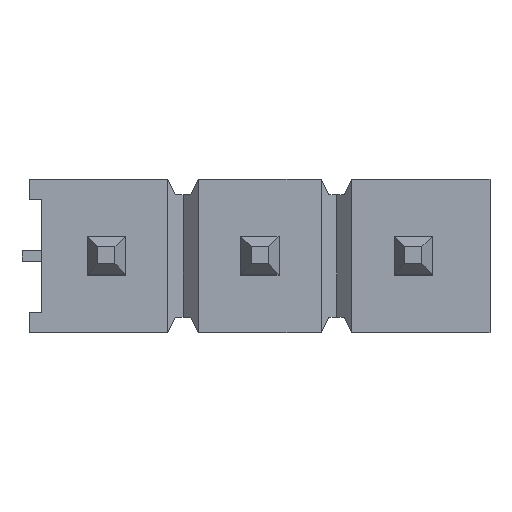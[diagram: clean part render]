
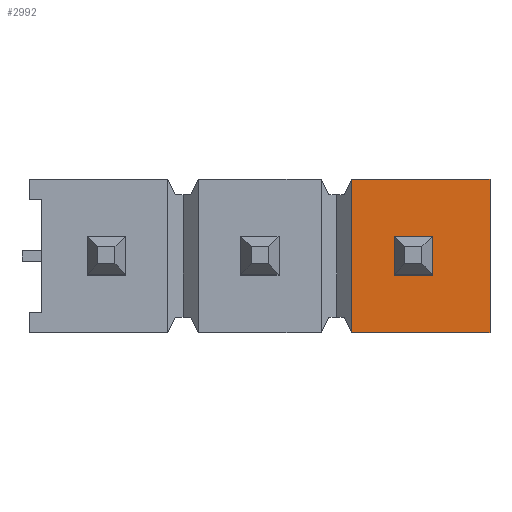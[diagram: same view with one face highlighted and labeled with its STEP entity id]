
A CAD part, top view. The second image highlights one B-rep face of the part: STEP entity #2992.
In plain terms, the highlighted planar face has unit normal (0, 0, 1).
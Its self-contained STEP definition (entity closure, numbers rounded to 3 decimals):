
#2724 = VERTEX_POINT('',#2725);
#2725 = CARTESIAN_POINT('',(1.524,-1.249,2.58));
#2731 = EDGE_CURVE('',#2732,#2724,#2734,.T.);
#2732 = VERTEX_POINT('',#2733);
#2733 = CARTESIAN_POINT('',(1.524,1.291,2.58));
#2734 = LINE('',#2735,#2736);
#2735 = CARTESIAN_POINT('',(1.524,0.021,2.58));
#2736 = VECTOR('',#2737,1.);
#2737 = DIRECTION('',(0.,-1.,0.));
#2992 = ADVANCED_FACE('',(#2993,#3018),#3052,.T.);
#2993 = FACE_BOUND('',#2994,.T.);
#2994 = EDGE_LOOP('',(#2995,#3003,#3004,#3012));
#2995 = ORIENTED_EDGE('',*,*,#2996,.T.);
#2996 = EDGE_CURVE('',#2997,#2732,#2999,.T.);
#2997 = VERTEX_POINT('',#2998);
#2998 = CARTESIAN_POINT('',(3.81,1.291,2.58));
#2999 = LINE('',#3000,#3001);
#3000 = CARTESIAN_POINT('',(3.81,1.291,2.58));
#3001 = VECTOR('',#3002,1.);
#3002 = DIRECTION('',(-1.,0.,0.));
#3003 = ORIENTED_EDGE('',*,*,#2731,.T.);
#3004 = ORIENTED_EDGE('',*,*,#3005,.T.);
#3005 = EDGE_CURVE('',#2724,#3006,#3008,.T.);
#3006 = VERTEX_POINT('',#3007);
#3007 = CARTESIAN_POINT('',(3.81,-1.249,2.58));
#3008 = LINE('',#3009,#3010);
#3009 = CARTESIAN_POINT('',(-3.81,-1.249,2.58));
#3010 = VECTOR('',#3011,1.);
#3011 = DIRECTION('',(1.,0.,0.));
#3012 = ORIENTED_EDGE('',*,*,#3013,.T.);
#3013 = EDGE_CURVE('',#3006,#2997,#3014,.T.);
#3014 = LINE('',#3015,#3016);
#3015 = CARTESIAN_POINT('',(3.81,-1.249,2.58));
#3016 = VECTOR('',#3017,1.);
#3017 = DIRECTION('',(0.,1.,0.));
#3018 = FACE_BOUND('',#3019,.T.);
#3019 = EDGE_LOOP('',(#3020,#3030,#3038,#3046));
#3020 = ORIENTED_EDGE('',*,*,#3021,.F.);
#3021 = EDGE_CURVE('',#3022,#3024,#3026,.T.);
#3022 = VERTEX_POINT('',#3023);
#3023 = CARTESIAN_POINT('',(2.858,0.339,2.58));
#3024 = VERTEX_POINT('',#3025);
#3025 = CARTESIAN_POINT('',(2.223,0.339,2.58));
#3026 = LINE('',#3027,#3028);
#3027 = CARTESIAN_POINT('',(2.858,0.339,2.58));
#3028 = VECTOR('',#3029,1.);
#3029 = DIRECTION('',(-1.,0.,0.));
#3030 = ORIENTED_EDGE('',*,*,#3031,.F.);
#3031 = EDGE_CURVE('',#3032,#3022,#3034,.T.);
#3032 = VERTEX_POINT('',#3033);
#3033 = CARTESIAN_POINT('',(2.858,-0.297,2.58));
#3034 = LINE('',#3035,#3036);
#3035 = CARTESIAN_POINT('',(2.858,-0.297,2.58));
#3036 = VECTOR('',#3037,1.);
#3037 = DIRECTION('',(0.,1.,0.));
#3038 = ORIENTED_EDGE('',*,*,#3039,.F.);
#3039 = EDGE_CURVE('',#3040,#3032,#3042,.T.);
#3040 = VERTEX_POINT('',#3041);
#3041 = CARTESIAN_POINT('',(2.223,-0.297,2.58));
#3042 = LINE('',#3043,#3044);
#3043 = CARTESIAN_POINT('',(2.223,-0.297,2.58));
#3044 = VECTOR('',#3045,1.);
#3045 = DIRECTION('',(1.,0.,0.));
#3046 = ORIENTED_EDGE('',*,*,#3047,.F.);
#3047 = EDGE_CURVE('',#3024,#3040,#3048,.T.);
#3048 = LINE('',#3049,#3050);
#3049 = CARTESIAN_POINT('',(2.223,0.339,2.58));
#3050 = VECTOR('',#3051,1.);
#3051 = DIRECTION('',(0.,-1.,0.));
#3052 = PLANE('',#3053);
#3053 = AXIS2_PLACEMENT_3D('',#3054,#3055,#3056);
#3054 = CARTESIAN_POINT('',(0.,0.021,2.58));
#3055 = DIRECTION('',(0.,0.,1.));
#3056 = DIRECTION('',(0.,-1.,0.));
